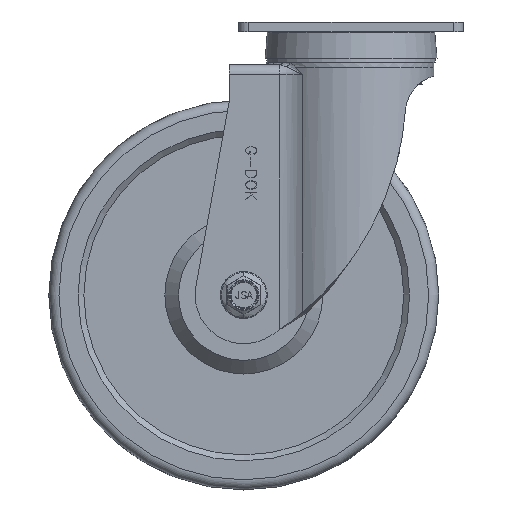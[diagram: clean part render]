
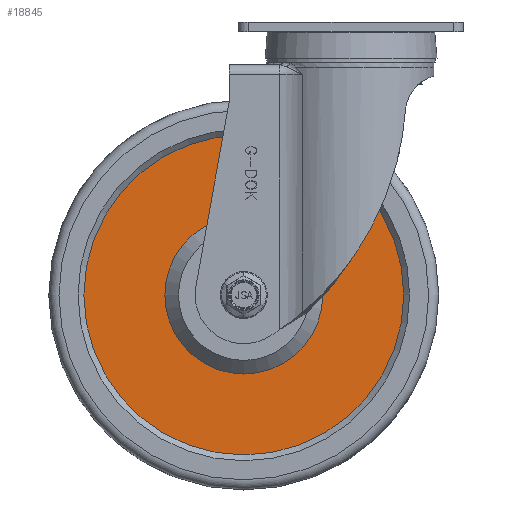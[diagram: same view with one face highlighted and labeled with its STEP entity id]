
A CAD part, front view. The second image highlights one B-rep face of the part: STEP entity #18845.
In plain terms, the highlighted planar face has unit normal (0, -1, 0).
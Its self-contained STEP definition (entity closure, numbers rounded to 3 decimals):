
#4976=FACE_BOUND('',#6117,.T.);
#5063=FACE_OUTER_BOUND('',#6116,.T.);
#6116=EDGE_LOOP('',(#12381,#12382));
#6117=EDGE_LOOP('',(#12383,#12384));
#7254=CIRCLE('',#19935,82.);
#7255=CIRCLE('',#19936,82.);
#7256=CIRCLE('',#19938,40.5);
#7257=CIRCLE('',#19939,40.5);
#7549=VERTEX_POINT('',#25666);
#7550=VERTEX_POINT('',#25667);
#7551=VERTEX_POINT('',#25672);
#7552=VERTEX_POINT('',#25673);
#9464=EDGE_CURVE('',#7549,#7550,#7254,.T.);
#9466=EDGE_CURVE('',#7550,#7549,#7255,.T.);
#9467=EDGE_CURVE('',#7551,#7552,#7256,.T.);
#9468=EDGE_CURVE('',#7552,#7551,#7257,.T.);
#12381=ORIENTED_EDGE('',*,*,#9464,.F.);
#12382=ORIENTED_EDGE('',*,*,#9466,.F.);
#12383=ORIENTED_EDGE('',*,*,#9467,.T.);
#12384=ORIENTED_EDGE('',*,*,#9468,.T.);
#18114=PLANE('',#19937);
#18845=ADVANCED_FACE('',(#5063,#4976),#18114,.T.);
#19935=AXIS2_PLACEMENT_3D('',#25668,#21183,#21184);
#19936=AXIS2_PLACEMENT_3D('',#25670,#21186,#21187);
#19937=AXIS2_PLACEMENT_3D('',#25671,#21188,#21189);
#19938=AXIS2_PLACEMENT_3D('',#25674,#21190,#21191);
#19939=AXIS2_PLACEMENT_3D('',#25675,#21192,#21193);
#21183=DIRECTION('center_axis',(0.,1.,0.));
#21184=DIRECTION('ref_axis',(0.,0.,
1.));
#21186=DIRECTION('center_axis',(0.,1.,0.));
#21187=DIRECTION('ref_axis',(0.,0.,
1.));
#21188=DIRECTION('center_axis',(0.,-1.,0.));
#21189=DIRECTION('ref_axis',(0.,0.,
-1.));
#21190=DIRECTION('center_axis',(0.,1.,0.));
#21191=DIRECTION('ref_axis',(0.,0.,
1.));
#21192=DIRECTION('center_axis',(0.,1.,0.));
#21193=DIRECTION('ref_axis',(0.,0.,
1.));
#25666=CARTESIAN_POINT('',(-55.,-17.,-58.));
#25667=CARTESIAN_POINT('',(-55.,-17.,-222.));
#25668=CARTESIAN_POINT('Origin',(-55.,-17.,-140.));
#25670=CARTESIAN_POINT('Origin',(-55.,-17.,-140.));
#25671=CARTESIAN_POINT('Origin',(-55.,-17.,-58.));
#25672=CARTESIAN_POINT('',(-55.,-17.,-99.5));
#25673=CARTESIAN_POINT('',(-55.,-17.,-180.5));
#25674=CARTESIAN_POINT('Origin',(-55.,-17.,-140.));
#25675=CARTESIAN_POINT('Origin',(-55.,-17.,-140.));
